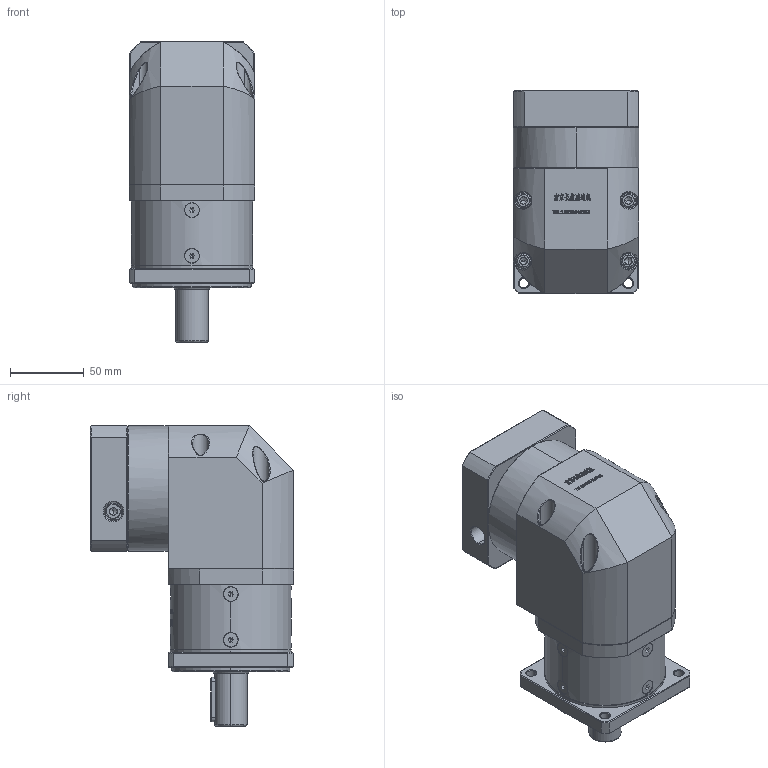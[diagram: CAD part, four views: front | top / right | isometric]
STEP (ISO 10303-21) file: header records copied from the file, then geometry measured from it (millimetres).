
FILE_DESCRIPTION (( 'STEP AP214' ), '1' );
FILE_NAME ('ZF80-D22-L1-19-70-90-M5.step', '2022-05-08T12:00:02', ( '' ), ( 'Microsoft' ), 'SwSTEP 2.0', 'SolidWorks 2016', '' );
FILE_SCHEMA (( 'AUTOMOTIVE_DESIGN' ));
Length unit declared in the file: millimetre
Products named in the file (1): ZF80-D22-L1-19-70-90-M5
Bounding box: 85 x 137.6 x 203.5 mm (x, y, z)
Volume: 1258592.2 mm3; surface area: 135247.2 mm2
Topology: 13 solids, 13 shells, 3083 faces, 8107 edges, 5172 vertices
Faces by surface type: plane 1619, bspline 624, cylinder 467, cone 359, torus 14
Entity records: 167968 total; most frequent: CARTESIAN_POINT 63847, ORIENTED_EDGE 16122, DIRECTION 12088, EDGE_CURVE 8061, VERTEX_POINT 5172, LINE 4994, VECTOR 4994, AXIS2_PLACEMENT_3D 3547
